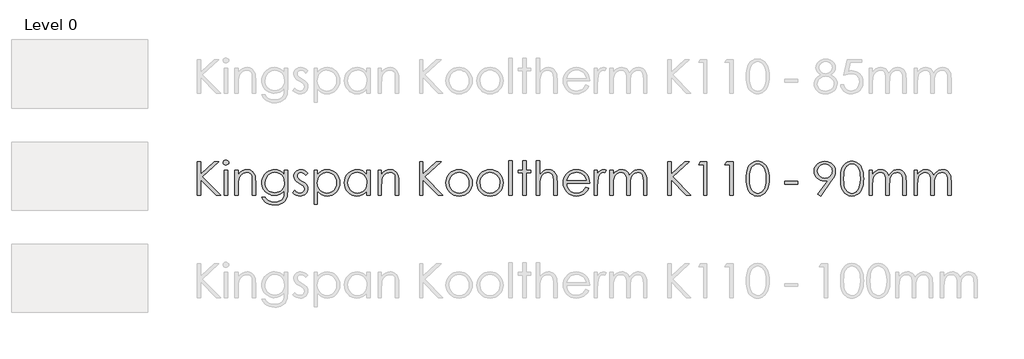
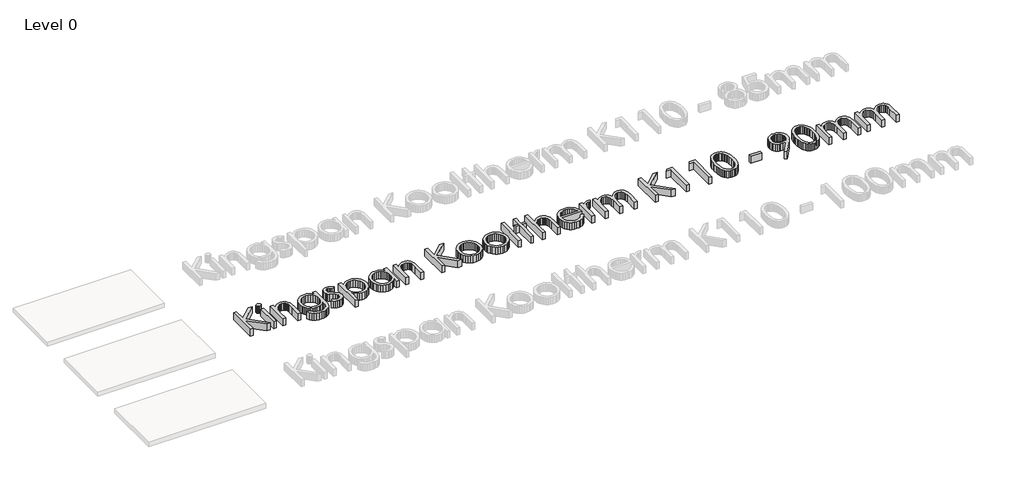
# One storey, part 4 of 9: 1 proxy.
"""IFC4 building model written with IfcOpenShell, lengths in millimetres."""

from ifc_helpers import new_model, si_unit, origin, origin_with_axes, place, context, project, spatial, polyline, outline, extrude, element, save

model = new_model("IFC4")

# Units and contexts
model_context = context("Model", 3, world=origin())
ifc_project = project(units=[si_unit("LENGTHUNIT", "METRE", prefix="MILLI")], contexts=[model_context])

# Site, building, storey
site = spatial("IfcSite", under=ifc_project)
building = spatial("IfcBuilding", under=site)
storey = spatial("IfcBuildingStorey", under=building, Name="Level 0", Elevation=0.0)

# Proxy
placement = place(None, origin())
element("IfcBuildingElementProxy", 1, Name="600mm KI_CenturyGothic", ObjectType="600mm KI_CenturyGothic", at=placement, inside=storey, context=model_context, shape_type="SweptSolid", body=[
    extrude(outline(polyline([(-3852.2663848, -3099.1034017), (-3792.944575, -3099.1034017), (-3792.944575, -3318.316027), (-3555.1938841, -3099.1034017), (-3471.6181051, -3099.1034017), (-3760.9664119, -3366.0515459), (-3441.9572002, -3692.3214999), (-3520.8984627, -3692.3214999), (-3792.944575, -3414.0960325), (-3792.944575, -3692.3214999), (-3852.2663848, -3692.3214999), (-3852.2663848, -3099.1034017)])), origin_with_axes(), (0.0, 0.0, 1.0), 150.0),
    extrude(outline(polyline([(-3348.1854852, -3069.4424967), (-3329.145347, -3072.7252792), (-3313.1176445, -3082.5736265), (-3302.226531, -3097.0178693), (-3298.5961598, -3114.088338), (-3302.226531, -3130.9270809), (-3313.1176445, -3145.2940817), (-3329.145347, -3155.142429), (-3348.1854852, -3158.4252115), (-3366.9938975, -3155.142429), (-3382.9443581, -3145.2940817), (-3393.8354717, -3130.9270809), (-3397.4658428, -3114.088338), (-3393.8354717, -3097.0178693), (-3382.9443581, -3082.5736265), (-3366.9938975, -3072.7252792), (-3348.1854852, -3069.4424967)])), origin_with_axes(), (0.0, 0.0, 1.0), 150.0),
    extrude(outline(polyline([(-3377.6919062, -3247.4079262), (-3318.3700964, -3247.4079262), (-3318.3700964, -3692.3214999), (-3377.6919062, -3692.3214999), (-3377.6919062, -3247.4079262)])), origin_with_axes(), (0.0, 0.0, 1.0), 150.0),
    extrude(outline(polyline([(-3189.8395084, -3247.4079262), (-3130.5176986, -3247.4079262), (-3130.5176986, -3326.5036726), (-3096.9946967, -3286.9944204), (-3060.0730495, -3259.303185), (-3019.7141359, -3242.9665147), (-2975.879335, -3237.5209579), (-2953.4357238, -3239.0995901), (-2932.2955704, -3243.8354865), (-2912.4588747, -3251.7286472), (-2893.9256368, -3262.7790723), (-2877.212412, -3276.5039994), (-2862.835756, -3292.4206667), (-2841.0921499, -3330.8292213), (-2833.6238199, -3355.2087086), (-2828.2892984, -3385.5551357), (-2824.0216812, -3464.1488095), (-2824.0216812, -3692.3214999), (-2883.343491, -3692.3214999), (-2883.343491, -3479.1337458), (-2883.343491, -3376.092998), (-2884.7290183, -3355.2956057), (-2889.8125035, -3337.2403023), (-2898.2849788, -3321.9270877), (-2910.1464442, -3309.355962), (-2924.7403432, -3299.5558909), (-2941.4101193, -3292.5558401), (-2980.977303, -3286.9557994), (-3005.3471351, -3289.1137461), (-3028.4038541, -3295.5875862), (-3050.1474602, -3306.3773197), (-3070.5779533, -3321.4829466), (-3088.6622225, -3339.7651482), (-3103.3671568, -3360.084606), (-3114.6927562, -3382.44132), (-3122.6390208, -3406.8352901), (-3128.5480292, -3453.9142525), (-3130.5176986, -3528.4141035), (-3130.5176986, -3692.3214999), (-3189.8395084, -3692.3214999), (-3189.8395084, -3247.4079262)])), origin_with_axes(), (0.0, 0.0, 1.0), 150.0),
    extrude(outline(polyline([(-2319.7862977, -3247.4079262), (-2260.4644879, -3247.4079262), (-2260.4644879, -3598.395301), (-2264.5196897, -3678.6496765), (-2269.588692, -3709.4499001), (-2276.6852953, -3734.0321474), (-2289.9371156, -3762.6454585), (-2307.2924139, -3787.7732271), (-2328.7511904, -3809.4154531), (-2354.3134448, -3827.5721366), (-2383.3226209, -3841.9343098), (-2415.122162, -3852.1930049), (-2449.7120682, -3858.348222), (-2487.0923395, -3860.3999611), (-2541.0458345, -3856.3833802), (-2589.206184, -3844.3336376), (-2630.260275, -3825.5059147), (-2662.8949946, -3801.1553932), (-2690.2000204, -3767.8061856), (-2715.2650299, -3721.9824048), (-2655.94322, -3721.9824048), (-2642.4355358, -3743.151524), (-2627.0933555, -3761.3951046), (-2609.9166791, -3776.7131468), (-2590.9055067, -3789.1056506), (-2569.7894914, -3798.6691682), (-2546.2982864, -3805.5002523), (-2492.1903075, -3810.9651195), (-2438.5071593, -3805.6354257), (-2415.083541, -3798.9733084), (-2393.93856, -3789.6463441), (-2359.6624492, -3765.6047903), (-2336.8567664, -3736.1176798), (-2329.3884364, -3717.4782342), (-2324.0539149, -3693.7697863), (-2319.7862977, -3631.1458835), (-2319.7862977, -3608.4367532), (-2354.757586, -3644.2190818), (-2396.6420279, -3670.6165148), (-2443.392712, -3686.8952536), (-2492.9627269, -3692.3214999), (-2522.4063889, -3690.4242447), (-2550.9521133, -3684.7324793), (-2578.5999001, -3675.2462036), (-2605.3497494, -3661.9654175), (-2630.1540674, -3645.4742634), (-2651.9652601, -3626.3568832), (-2670.7833277, -3604.6132772), (-2686.6082702, -3580.2434451), (-2699.1456025, -3553.9280817), (-2708.1008399, -3526.3478816), (-2713.4739824, -3497.5028447), (-2715.2650299, -3467.392971), (-2713.3967404, -3437.1044753), (-2707.7918722, -3407.8780563), (-2698.4504251, -3379.713714), (-2685.3723991, -3352.6114483), (-2668.9971079, -3327.4257483), (-2649.7638648, -3305.0111029), (-2627.67267, -3285.367512), (-2602.7235235, -3268.4949758), (-2575.9833294, -3254.943843), (-2548.5189922, -3245.2644624), (-2520.3305117, -3239.456834), (-2491.4178881, -3237.5209579), (-2444.5320306, -3242.4644421), (-2400.8903346, -3257.2948945), (-2359.6045177, -3283.8661218), (-2319.7862977, -3324.0319306), (-2319.7862977, -3247.4079262)]), holes=[polyline([(-2484.1571458, -3286.9557994), (-2529.0154023, -3292.9806707), (-2570.5908765, -3311.0552847), (-2606.2187212, -3339.7699758), (-2633.2340897, -3377.7150788), (-2650.2659375, -3421.9940208), (-2655.94322, -3469.7102292), (-2653.0080263, -3505.6229036), (-2644.2024452, -3538.2817613), (-2629.5264766, -3567.6868023), (-2608.9801206, -3593.8380266), (-2583.7606272, -3615.296803), (-2555.0652466, -3630.6245004), (-2522.8939786, -3639.8211189), (-2487.2468234, -3642.8866584), (-2451.3244937, -3639.845257), (-2419.1001219, -3630.7210528), (-2390.573708, -3615.5140459), (-2365.7452519, -3594.2242363), (-2345.6382095, -3567.9812872), (-2331.2760363, -3537.9148621), (-2322.6587323, -3504.024961), (-2319.7862977, -3466.3115838), (-2325.0773706, -3417.6105407), (-2340.9505892, -3374.3936754), (-2366.4983608, -3338.1672056), (-2400.8130926, -3310.4373492), (-2440.9982119, -3292.8261869), (-2484.1571458, -3286.9557994)])]), origin_with_axes(), (0.0, 0.0, 1.0), 150.0),
    extrude(outline(polyline([(-1904.5336289, -3298.6965743), (-1940.9918246, -3336.390641), (-1962.9575012, -3314.7628978), (-1984.6721416, -3299.3145098), (-2006.1357456, -3290.045477), (-2027.3483133, -3286.9557994), (-2052.181597, -3291.6289368), (-2073.2300256, -3305.6483489), (-2087.5970264, -3325.8857371), (-2092.3860267, -3349.212803), (-2088.4466878, -3370.7633042), (-2076.628671, -3391.2324183), (-2052.0657341, -3413.400855), (-2010.2006027, -3439.122421), (-1958.3326401, -3471.9888664), (-1939.8428507, -3487.8138088), (-1926.315856, -3503.2332311), (-1909.9791857, -3535.9065716), (-1904.5336289, -3572.4420092), (-1906.9474396, -3598.5884059), (-1914.1888714, -3622.6492701), (-1926.2579245, -3644.624602), (-1943.1545989, -3664.5144015), (-1963.6719892, -3681.0055557), (-1986.6031901, -3692.7849515), (-2011.9482016, -3699.852589), (-2039.7070237, -3702.2084682), (-2077.4397114, -3698.3270607), (-2113.3958344, -3686.6828383), (-2145.4512394, -3668.2027042), (-2171.4817731, -3643.8135617), (-2135.7959969, -3603.3387852), (-2114.0041146, -3624.9665283), (-2091.5749863, -3640.4149163), (-2068.5086121, -3649.6839491), (-2044.8049918, -3652.7736267), (-2013.637869, -3647.1349651), (-1987.4914724, -3630.2189802), (-1969.7644472, -3605.6560434), (-1963.8554388, -3577.0765256), (-1967.7561567, -3553.2860081), (-1979.4583106, -3532.2762005), (-2005.0253927, -3510.5712154), (-2050.2119275, -3483.7682622), (-2099.762632, -3453.1032121), (-2117.441381, -3437.9444814), (-2130.3890611, -3422.9016136), (-2146.3781427, -3390.7689666), (-2151.7078365, -3354.310771), (-2149.5305794, -3330.2643896), (-2142.9988078, -3308.3325063), (-2132.1125219, -3288.5151211), (-2116.8717217, -3270.812234), (-2098.309518, -3256.2473007), (-2077.4590218, -3245.8437769), (-2054.3202332, -3239.6016627), (-2028.8931521, -3237.5209579), (-1997.9481, -3241.3444339), (-1966.9064954, -3252.814862), (-1935.7683384, -3271.9322421), (-1904.5336289, -3298.6965743)])), origin_with_axes(), (0.0, 0.0, 1.0), 150.0),
    extrude(outline(polyline([(-1795.7769776, -3247.4079262), (-1736.4551678, -3247.4079262), (-1736.4551678, -3328.5119631), (-1700.9238754, -3288.2689124), (-1660.4490989, -3259.9211205), (-1614.9922173, -3243.1209986), (-1564.5146096, -3237.5209579), (-1520.0618732, -3241.7596094), (-1478.9305402, -3254.4755637), (-1441.1206107, -3275.668821), (-1406.6320845, -3305.3393811), (-1377.9077381, -3340.9768811), (-1357.3903478, -3380.070958), (-1345.0799137, -3422.6216116), (-1340.9764356, -3468.628842), (-1345.0412927, -3515.5291824), (-1357.235864, -3558.7508754), (-1377.5601494, -3598.293921), (-1406.014149, -3634.1583192), (-1440.2130179, -3663.9302594), (-1477.7719111, -3685.1959309), (-1518.6908288, -3697.9553339), (-1562.9697708, -3702.2084682), (-1612.6170277, -3696.743601), (-1658.0545988, -3680.3489992), (-1699.3211052, -3653.1019049), (-1736.4551678, -3615.07956), (-1736.4551678, -3850.5129928), (-1795.7769776, -3850.5129928), (-1795.7769776, -3247.4079262)]), holes=[polyline([(-1568.5311905, -3286.9557994), (-1602.5852307, -3290.2530647), (-1633.8392507, -3300.1448607), (-1662.2932503, -3316.6311872), (-1687.9472295, -3339.7120444), (-1709.1694525, -3367.6977647), (-1724.3281832, -3398.8986808), (-1733.4234216, -3433.3147926), (-1736.4551678, -3470.9461002), (-1731.048232, -3519.8016272), (-1714.8274246, -3563.4819442), (-1688.5265441, -3600.3263495), (-1652.8793888, -3628.6741414), (-1611.4390881, -3646.7487554), (-1567.7587711, -3652.7736267), (-1525.0632888, -3646.7101344), (-1485.0326535, -3628.5196576), (-1450.2544701, -3599.4187567), (-1423.3163435, -3560.6239924), (-1406.05277, -3515.9588407), (-1400.2982454, -3469.2467775), (-1405.9948385, -3422.3029886), (-1423.0846177, -3377.8695627), (-1449.8103289, -3339.5189395), (-1484.414718, -3310.8235589), (-1524.7157001, -3292.9227393), (-1568.5311905, -3286.9557994)])]), origin_with_axes(), (0.0, 0.0, 1.0), 150.0),
    extrude(outline(polyline([(-807.0801472, -3247.4079262), (-807.0801472, -3692.3214999), (-866.401957, -3692.3214999), (-866.401957, -3616.4699149), (-903.4780882, -3654.3184655), (-944.8797679, -3681.0441767), (-990.4525125, -3696.9173953), (-1040.0418379, -3702.2084682), (-1084.3159523, -3697.9553339), (-1125.2203871, -3685.1959309), (-1162.7551422, -3663.9302594), (-1196.9202178, -3634.1583192), (-1225.340424, -3598.293921), (-1245.6405713, -3558.7508754), (-1257.8206597, -3515.5291824), (-1261.8806892, -3468.628842), (-1257.7820388, -3422.6216116), (-1245.4860875, -3380.070958), (-1224.9928353, -3340.9768811), (-1196.3022822, -3305.3393811), (-1161.8475494, -3275.668821), (-1124.061758, -3254.4755637), (-1082.9449079, -3241.7596094), (-1038.4969991, -3237.5209579), (-987.7490446, -3243.1209986), (-942.0990581, -3259.9211205), (-921.2051134, -3272.6081091), (-901.6242816, -3288.2689124), (-866.401957, -3328.5119631), (-866.401957, -3247.4079262), (-807.0801472, -3247.4079262)]), holes=[polyline([(-1034.3259343, -3286.9557994), (-1078.1414247, -3292.9227393), (-1118.4424068, -3310.8235589), (-1153.0467959, -3339.5189395), (-1179.7725071, -3377.8695627), (-1196.8622863, -3422.3029886), (-1202.5588794, -3469.2467775), (-1196.8043548, -3515.9588407), (-1179.5407813, -3560.6239924), (-1152.6026548, -3599.4187567), (-1117.8244713, -3628.5196576), (-1077.6779731, -3646.7101344), (-1034.6349021, -3652.7736267), (-991.0125165, -3646.7487554), (-949.7460102, -3628.6741414), (-914.2726493, -3600.3263495), (-888.0297002, -3563.4819442), (-871.8088928, -3519.8016272), (-866.401957, -3470.9461002), (-869.4337032, -3433.3147926), (-878.5289416, -3398.8986808), (-893.6876723, -3367.6977647), (-914.9098953, -3339.7120444), (-940.5638746, -3316.6311872), (-969.0178742, -3300.1448607), (-1000.2718941, -3290.2530647), (-1034.3259343, -3286.9557994)])]), origin_with_axes(), (0.0, 0.0, 1.0), 150.0),
    extrude(outline(polyline([(-668.662591, -3247.4079262), (-609.3407811, -3247.4079262), (-609.3407811, -3326.5036726), (-575.8177792, -3286.9944204), (-538.896132, -3259.303185), (-498.5372184, -3242.9665147), (-454.7024175, -3237.5209579), (-432.2588064, -3239.0995901), (-411.1186529, -3243.8354865), (-391.2819572, -3251.7286472), (-372.7487193, -3262.7790723), (-356.0354946, -3276.5039994), (-341.6588385, -3292.4206667), (-319.9152324, -3330.8292213), (-312.4469024, -3355.2087086), (-307.1123809, -3385.5551357), (-302.8447637, -3464.1488095), (-302.8447637, -3692.3214999), (-362.1665735, -3692.3214999), (-362.1665735, -3479.1337458), (-362.1665735, -3376.092998), (-363.5521008, -3355.2956057), (-368.635586, -3337.2403023), (-377.1080613, -3321.9270877), (-388.9695267, -3309.355962), (-403.5634257, -3299.5558909), (-420.2332018, -3292.5558401), (-459.8003855, -3286.9557994), (-484.1702176, -3289.1137461), (-507.2269366, -3295.5875862), (-528.9705427, -3306.3773197), (-549.4010358, -3321.4829466), (-567.485305, -3339.7651482), (-582.1902393, -3360.084606), (-593.5158387, -3382.44132), (-601.4621033, -3406.8352901), (-607.3711117, -3453.9142525), (-609.3407811, -3528.4141035), (-609.3407811, -3692.3214999), (-668.662591, -3692.3214999), (-668.662591, -3247.4079262)])), origin_with_axes(), (0.0, 0.0, 1.0), 150.0),
    extrude(outline(polyline([(62.9730635, -3099.1034017), (122.2948734, -3099.1034017), (122.2948734, -3318.316027), (360.0455643, -3099.1034017), (443.6213432, -3099.1034017), (154.2730365, -3366.0515459), (473.2822481, -3692.3214999), (394.3409856, -3692.3214999), (122.2948734, -3414.0960325), (122.2948734, -3692.3214999), (62.9730635, -3692.3214999), (62.9730635, -3099.1034017)])), origin_with_axes(), (0.0, 0.0, 1.0), 150.0),
    extrude(outline(polyline([(760.1588128, -3237.5209579), (809.4681362, -3242.1458191), (854.3553585, -3256.0204025), (894.8204798, -3279.1447083), (930.8635, -3311.5187363), (957.7630055, -3346.7507161), (976.9769381, -3385.091684), (988.5052976, -3426.54164), (992.3480841, -3471.1005841), (988.283227, -3515.9153921), (976.0886558, -3557.8239721), (955.7643703, -3596.8263241), (927.3103707, -3632.9224481), (892.4742558, -3663.2350819), (853.0036246, -3684.8869632), (808.8984769, -3697.8780919), (760.1588128, -3702.2084682), (711.2839754, -3697.8780919), (667.0822753, -3684.8869632), (627.5537126, -3663.2350819), (592.6982872, -3632.9224481), (564.2442876, -3596.8263241), (543.9200022, -3557.8239721), (531.7254309, -3515.9153921), (527.6605738, -3471.1005841), (531.5033603, -3426.7347449), (543.0317198, -3385.4006518), (562.2456524, -3347.0983049), (589.145158, -3311.8277041), (625.2074886, -3279.3185026), (665.7305413, -3256.0976445), (710.7143161, -3242.1651295), (760.1588128, -3237.5209579)]), holes=[polyline([(760.004329, -3286.9557994), (725.7282181, -3290.3303067), (693.9624704, -3300.4538284), (664.7070856, -3317.3263647), (637.962064, -3340.9479154), (615.6584538, -3369.3584664), (599.7273037, -3400.5980035), (590.1686137, -3434.6665266), (586.9823836, -3471.5640357), (592.7948396, -3519.2995546), (610.2322075, -3563.6364281), (637.5758543, -3601.4270471), (673.1071466, -3629.5238028), (714.6439998, -3646.9611707), (760.004329, -3652.7736267), (805.3646581, -3646.9611707), (846.9015113, -3629.5238028), (882.4328037, -3601.4270471), (909.7764504, -3563.6364281), (927.2138183, -3519.2995546), (933.0262743, -3471.5640357), (929.8255614, -3434.6665266), (920.2234227, -3400.5980035), (904.2198583, -3369.3584664), (881.8148681, -3340.9479154), (854.9974321, -3317.3263647), (825.7565303, -3300.4538284), (794.0921625, -3290.3303067), (760.004329, -3286.9557994)])]), origin_with_axes(), (0.0, 0.0, 1.0), 150.0),
    extrude(outline(polyline([(1303.9420695, -3237.5209579), (1353.2513929, -3242.1458191), (1398.1386152, -3256.0204025), (1438.6037365, -3279.1447083), (1474.6467567, -3311.5187363), (1501.5462622, -3346.7507161), (1520.7601948, -3385.091684), (1532.2885543, -3426.54164), (1536.1313408, -3471.1005841), (1532.0664837, -3515.9153921), (1519.8719125, -3557.8239721), (1499.547627, -3596.8263241), (1471.0936274, -3632.9224481), (1436.2575126, -3663.2350819), (1396.7868813, -3684.8869632), (1352.6817336, -3697.8780919), (1303.9420695, -3702.2084682), (1255.0672321, -3697.8780919), (1210.865532, -3684.8869632), (1171.3369693, -3663.2350819), (1136.4815439, -3632.9224481), (1108.0275443, -3596.8263241), (1087.7032589, -3557.8239721), (1075.5086876, -3515.9153921), (1071.4438305, -3471.1005841), (1075.286617, -3426.7347449), (1086.8149766, -3385.4006518), (1106.0289091, -3347.0983049), (1132.9284147, -3311.8277041), (1168.9907453, -3279.3185026), (1209.5137981, -3256.0976445), (1254.4975728, -3242.1651295), (1303.9420695, -3237.5209579)]), holes=[polyline([(1303.7875857, -3286.9557994), (1269.5114748, -3290.3303067), (1237.7457271, -3300.4538284), (1208.4903423, -3317.3263647), (1181.7453207, -3340.9479154), (1159.4417105, -3369.3584664), (1143.5105604, -3400.5980035), (1133.9518704, -3434.6665266), (1130.7656404, -3471.5640357), (1136.5780963, -3519.2995546), (1154.0154643, -3563.6364281), (1181.359111, -3601.4270471), (1216.8904033, -3629.5238028), (1258.4272565, -3646.9611707), (1303.7875857, -3652.7736267), (1349.1479149, -3646.9611707), (1390.684768, -3629.5238028), (1426.2160604, -3601.4270471), (1453.5597071, -3563.6364281), (1470.997075, -3519.2995546), (1476.809531, -3471.5640357), (1473.6088181, -3434.6665266), (1464.0066795, -3400.5980035), (1448.003115, -3369.3584664), (1425.5981249, -3340.9479154), (1398.7806889, -3317.3263647), (1369.539787, -3300.4538284), (1337.8754193, -3290.3303067), (1303.7875857, -3286.9557994)])]), origin_with_axes(), (0.0, 0.0, 1.0), 150.0),
    extrude(outline(polyline([(1635.0010238, -3079.3294651), (1694.3228337, -3079.3294651), (1694.3228337, -3692.3214999), (1635.0010238, -3692.3214999), (1635.0010238, -3079.3294651)])), origin_with_axes(), (0.0, 0.0, 1.0), 150.0),
    extrude(outline(polyline([(1882.1752314, -3079.3294651), (1941.4970413, -3079.3294651), (1941.4970413, -3247.4079262), (2020.5927877, -3247.4079262), (2020.5927877, -3296.8427677), (1941.4970413, -3296.8427677), (1941.4970413, -3692.3214999), (1882.1752314, -3692.3214999), (1882.1752314, -3296.8427677), (1803.079485, -3296.8427677), (1803.079485, -3247.4079262), (1882.1752314, -3247.4079262), (1882.1752314, -3079.3294651)])), origin_with_axes(), (0.0, 0.0, 1.0), 150.0),
    extrude(outline(polyline([(2119.4624707, -3079.3294651), (2178.7842806, -3079.3294651), (2178.7842806, -3328.0485114), (2212.5583188, -3288.3461544), (2249.6151394, -3260.0756044), (2289.9161216, -3243.1596195), (2333.4226442, -3237.5209579), (2355.8662553, -3239.0995901), (2377.0064088, -3243.8354865), (2396.8431044, -3251.7286472), (2415.3763424, -3262.7790723), (2432.0895671, -3276.4895166), (2446.4662232, -3292.3627352), (2468.2098293, -3330.5974955), (2475.6781593, -3354.9045684), (2481.0126808, -3385.2654784), (2485.280298, -3464.1488095), (2485.280298, -3692.3214999), (2425.9584882, -3692.3214999), (2425.9584882, -3479.1337458), (2424.5681332, -3414.752589), (2420.3970685, -3376.092998), (2406.879729, -3337.2403023), (2397.1665551, -3321.9270877), (2385.4837117, -3309.355962), (2371.840854, -3299.5558909), (2356.2476374, -3292.5558401), (2319.2101273, -3286.9557994), (2296.3416854, -3289.1137461), (2274.6994594, -3295.5875862), (2254.2834492, -3306.3773197), (2235.0936547, -3321.4829466), (2218.1052556, -3339.7651482), (2204.2934312, -3360.084606), (2193.6581816, -3382.44132), (2186.1995068, -3406.8352901), (2180.6380871, -3453.6825267), (2178.7842806, -3528.4141035), (2178.7842806, -3692.3214999), (2119.4624707, -3692.3214999), (2119.4624707, -3079.3294651)])), origin_with_axes(), (0.0, 0.0, 1.0), 150.0),
    extrude(outline(polyline([(2991.0605203, -3544.0169753), (3038.950523, -3569.1978477), (3013.3255094, -3611.0822896), (2984.0315038, -3644.0452875), (2950.952643, -3669.1296074), (2913.9730643, -3687.3780157), (2872.4941426, -3698.5008551), (2825.9172528, -3702.2084682), (2774.4258447, -3697.7767119), (2728.8627554, -3684.481443), (2689.227985, -3662.3226615), (2655.5215335, -3631.3003674), (2628.6220279, -3594.6973431), (2609.4080954, -3555.7963712), (2597.8797358, -3514.5974515), (2594.0369493, -3471.1005841), (2597.3197318, -3430.2202874), (2607.1680791, -3391.618628), (2623.5819913, -3355.2956057), (2646.5614684, -3321.2512207), (2682.7493173, -3284.6192308), (2724.5758277, -3258.4535236), (2772.0409998, -3242.7540993), (2825.1448334, -3237.5209579), (2879.7935059, -3242.8892727), (2928.6490329, -3258.9942172), (2971.7114143, -3285.8357913), (3008.9806503, -3323.4139951), (3030.4539096, -3355.585263), (3045.9022976, -3391.541386), (3055.3258143, -3431.2823641), (3058.7244596, -3474.8081972), (2653.3587591, -3474.8081972), (2657.095338, -3512.0629503), (2666.6057518, -3545.8128504), (2681.8900007, -3576.0578975), (2702.9480845, -3602.7980916), (2728.3124066, -3624.6623882), (2756.5153699, -3640.2797429), (2787.5569744, -3649.6501557), (2821.4372203, -3652.7736267), (2854.9602222, -3649.761191), (2887.5563208, -3640.7238841), (2917.2944677, -3626.6851615), (2942.2436143, -3608.668479), (2965.725164, -3582.5027719), (2991.0605203, -3544.0169753)]), holes=[polyline([(2999.4026498, -3425.3733557), (2984.9777175, -3382.8516678), (2965.1844704, -3349.8307385), (2939.0766947, -3324.3022774), (2905.7081767, -3304.257994), (2867.7630738, -3291.2813481), (2827.9255433, -3286.9557994), (2795.503239, -3289.6689226), (2765.4368139, -3297.808292), (2737.726268, -3311.3739077), (2712.3716012, -3330.3657696), (2695.8321708, -3348.179692), (2681.4362043, -3369.9522638), (2669.1837016, -3395.683485), (2659.0746627, -3425.3733557), (2999.4026498, -3425.3733557)])]), origin_with_axes(), (0.0, 0.0, 1.0), 150.0),
    extrude(outline(polyline([(3137.820206, -3247.4079262), (3197.1420159, -3247.4079262), (3197.1420159, -3311.8277041), (3222.6897875, -3278.7874643), (3249.589293, -3255.6728138), (3277.7632906, -3242.0589219), (3307.1345382, -3237.5209579), (3330.4616041, -3241.305813), (3355.3335087, -3252.6603781), (3325.8270877, -3294.6799934), (3297.2475699, -3286.9557994), (3270.8308265, -3292.9034288), (3245.3409863, -3310.7463169), (3223.2884125, -3341.1023993), (3207.183468, -3384.5896114), (3199.6523789, -3442.7141712), (3197.1420159, -3540.1548783), (3197.1420159, -3692.3214999), (3137.820206, -3692.3214999), (3137.820206, -3247.4079262)])), origin_with_axes(), (0.0, 0.0, 1.0), 150.0),
    extrude(outline(polyline([(3414.6553185, -3247.4079262), (3473.9771284, -3247.4079262), (3473.9771284, -3323.5684789), (3503.5607913, -3287.0716623), (3533.9168737, -3261.9294109), (3577.3268439, -3243.6230712), (3622.8995884, -3237.5209579), (3653.7384329, -3240.668567), (3682.9165757, -3250.1113941), (3708.6767627, -3264.7873627), (3729.2617397, -3283.634396), (3746.0425511, -3309.0663047), (3760.3902414, -3343.4968994), (3775.16759, -3319.0981017), (3791.6925376, -3297.808292), (3809.965084, -3279.6274704), (3829.9852293, -3264.5556369), (3851.2798666, -3252.7279648), (3873.375889, -3244.2796277), (3896.2732965, -3239.2106253), (3919.9720892, -3237.5209579), (3962.3006723, -3243.3334139), (3981.4952943, -3250.5989839), (3999.3768034, -3260.7707818), (4015.4914031, -3273.53984), (4029.385297, -3288.5971907), (4050.5109676, -3325.5767694), (4057.8103309, -3348.9521114), (4063.0241619, -3377.5219739), (4067.1952266, -3450.2452603), (4067.1952266, -3692.3214999), (4007.8734168, -3692.3214999), (4007.8734168, -3446.6921311), (4005.4209852, -3385.5744462), (3998.0636904, -3347.1272706), (3984.7587663, -3322.6608861), (3964.4634466, -3303.4855746), (3938.3942919, -3291.0882432), (3907.7678627, -3286.9557994), (3888.1194443, -3288.5054659), (3869.3399976, -3293.1544651), (3834.3880198, -3311.7504621), (3805.6540182, -3340.6968791), (3785.8800816, -3377.9468046), (3779.1889985, -3402.1042213), (3774.4096535, -3433.1747916), (3770.5861775, -3516.0553931), (3770.5861775, -3692.3214999), (3711.2643677, -3692.3214999), (3711.2643677, -3461.9860352), (3708.850557, -3393.530366), (3701.6091252, -3351.2983353), (3688.3621325, -3325.0553863), (3667.9316394, -3304.5669617), (3641.6114484, -3291.35859), (3610.6953619, -3286.9557994), (3573.7544042, -3292.9999812), (3539.2465676, -3311.1325266), (3510.2808401, -3339.499629), (3489.9662099, -3376.2474819), (3477.9743988, -3428.0768236), (3473.9771284, -3501.6883923), (3473.9771284, -3692.3214999), (3414.6553185, -3692.3214999), (3414.6553185, -3247.4079262)])), origin_with_axes(), (0.0, 0.0, 1.0), 150.0),
    extrude(outline(polyline([(4433.0130538, -3099.1034017), (4492.3348637, -3099.1034017), (4492.3348637, -3318.316027), (4730.0855546, -3099.1034017), (4813.6613335, -3099.1034017), (4524.3130268, -3366.0515459), (4843.3222385, -3692.3214999), (4764.3809759, -3692.3214999), (4492.3348637, -3414.0960325), (4492.3348637, -3692.3214999), (4433.0130538, -3692.3214999), (4433.0130538, -3099.1034017)])), origin_with_axes(), (0.0, 0.0, 1.0), 150.0),
    extrude(outline(polyline([(5010.6282802, -3099.1034017), (5125.1008351, -3099.1034017), (5125.1008351, -3692.3214999), (5065.7790253, -3692.3214999), (5065.7790253, -3148.5382432), (4976.7963106, -3148.5382432), (5010.6282802, -3099.1034017)])), origin_with_axes(), (0.0, 0.0, 1.0), 150.0),
    extrude(outline(polyline([(5475.3157905, -3099.1034017), (5589.7883454, -3099.1034017), (5589.7883454, -3692.3214999), (5530.4665356, -3692.3214999), (5530.4665356, -3148.5382432), (5441.4838208, -3148.5382432), (5475.3157905, -3099.1034017)])), origin_with_axes(), (0.0, 0.0, 1.0), 150.0),
    extrude(outline(polyline([(5817.1886164, -3395.8669347), (5818.7672485, -3341.4355052), (5823.503145, -3293.5406748), (5831.3963057, -3252.1824436), (5842.4467307, -3217.3608116), (5856.374418, -3187.7192172), (5872.8993655, -3161.9010988), (5892.0215733, -3139.9064564), (5913.7410412, -3121.73529), (5937.4350063, -3107.5082902), (5962.4807053, -3097.3461475), (5988.8781382, -3091.2488619), (6016.6273051, -3089.2164334), (6044.8302684, -3091.2633448), (6071.6621873, -3097.404079), (6097.1230617, -3107.638636), (6121.2128917, -3121.9670159), (6143.3958113, -3140.3843909), (6163.1359546, -3162.8859335), (6180.4333215, -3189.4716437), (6195.2879121, -3220.1415214), (6207.2169642, -3255.6583309), (6215.7377157, -3296.7848363), (6220.8501666, -3343.5210375), (6222.5543169, -3395.8669347), (6220.8743047, -3448.0535203), (6215.8342681, -3494.6207548), (6207.4342071, -3535.5686382), (6195.6741218, -3570.8971704), (6180.9643599, -3601.4222195), (6163.7152692, -3627.9596535), (6143.9268497, -3650.5094723), (6121.5991014, -3669.071676), (6097.3403047, -3683.5690226), (6071.7587397, -3693.9242701), (6044.8544066, -3700.1374187), (6016.6273051, -3702.2084682), (5988.9022764, -3700.2001778), (5962.5772577, -3694.1753064), (5937.6522492, -3684.1338543), (5914.1272509, -3670.0758212), (5892.5526116, -3652.0398282), (5873.4786801, -3630.0644964), (5856.9054564, -3604.1498255), (5842.8329404, -3574.2958158), (5831.6135487, -3539.2762513), (5823.5996974, -3497.8649163), (5818.7913866, -3450.0618107), (5817.1886164, -3395.8669347)]), holes=[polyline([(5876.5104262, -3395.7124508), (5880.8939063, -3484.038609), (5886.3732564, -3519.0195525), (5894.0443466, -3547.8790723), (5903.8589006, -3572.1185586), (5915.7686422, -3593.2394015), (5929.7735714, -3611.2416011), (5945.8736882, -3626.1251574), (5981.1732547, -3646.1115094), (5999.5761469, -3651.1080973), (6018.4811117, -3652.7736267), (6037.4729737, -3651.1418907), (6055.8275896, -3646.2466828), (6090.6250835, -3626.665851), (6106.3824393, -3611.9898824), (6120.1315046, -3594.0697524), (6131.8722794, -3572.9054608), (6141.6047639, -3548.4970078), (6151.0669015, -3515.1381451), (6157.8255712, -3478.5544313), (6163.232507, -3395.7124508), (6158.4048858, -3314.1063413), (6152.3703592, -3279.4150551), (6143.9220221, -3248.7982811), (6133.3398763, -3222.135329), (6120.903924, -3199.3055082), (6106.6141651, -3180.3088186), (6090.4705997, -3165.1452603), (6055.402759, -3145.2747712), (6037.1736612, -3140.307149), (6018.4811117, -3138.6512749), (5999.4651116, -3140.307149), (5981.0380814, -3145.2747712), (5945.9509302, -3165.1452603), (5930.0052972, -3179.9564022), (5916.0776099, -3197.8958428), (5904.1678683, -3218.9635819), (5894.2760724, -3243.1596195), (5886.5036022, -3272.0143117), (5880.9518378, -3307.0580143), (5876.5104262, -3395.7124508)])]), origin_with_axes(), (0.0, 0.0, 1.0), 150.0),
    extrude(outline(polyline([(6499.3894294, -3445.1472923), (6726.7897004, -3445.1472923), (6726.7897004, -3494.5821338), (6499.3894294, -3494.5821338), (6499.3894294, -3445.1472923)])), origin_with_axes(), (0.0, 0.0, 1.0), 150.0),
    extrude(outline(polyline([(7132.1554008, -3702.2084682), (7081.1757205, -3674.5558537), (7254.5066336, -3429.3899366), (7192.24963, -3435.260324), (7156.3514385, -3432.1899569), (7123.2725777, -3422.9788556), (7093.0130478, -3407.62702), (7065.5728486, -3386.1344502), (7042.7961316, -3360.1521927), (7026.527048, -3331.3312939), (7016.7655979, -3299.6717538), (7013.5117812, -3265.1735724), (7015.0421371, -3241.1368462), (7019.6332049, -3218.3070254), (7027.2849846, -3196.6841098), (7037.9974761, -3176.2680996), (7051.5196432, -3157.450032), (7067.6004496, -3140.6209443), (7107.4379801, -3112.9297089), (7154.0148698, -3095.1447522), (7203.835921, -3089.2164334), (7252.5562746, -3095.0481998), (7297.3759102, -3112.5434992), (7317.6615747, -3125.3753165), (7335.6492914, -3140.5437024), (7351.3390604, -3158.048657), (7364.7308818, -3177.8901803), (7383.095153, -3221.2615296), (7389.2165767, -3267.3363467), (7385.3931007, -3304.180752), (7373.9226726, -3342.72448), (7352.6038972, -3386.1344502), (7319.2353792, -3437.5775822), (7132.1554008, -3702.2084682)]), holes=[polyline([(7204.7628243, -3385.8254825), (7231.0154286, -3383.5613281), (7254.7769804, -3376.768865), (7276.0474796, -3365.4480932), (7294.8269262, -3349.5990127), (7310.1691065, -3330.5540469), (7321.1278067, -3309.6456193), (7327.7030268, -3286.8737299), (7329.8947669, -3262.2383787), (7327.5437153, -3237.6030275), (7320.4905607, -3214.8311381), (7308.735303, -3193.9227105), (7292.2779422, -3174.8777447), (7272.4798675, -3159.0286641), (7250.702468, -3147.7078923), (7226.9457439, -3140.9154292), (7201.2096951, -3138.6512749), (7175.6088196, -3140.9154292), (7151.9486479, -3147.7078923), (7130.2291799, -3159.0286641), (7110.4504157, -3174.8777447), (7093.9930549, -3193.9227105), (7082.2377972, -3214.8311381), (7075.1846425, -3237.6030275), (7072.833591, -3262.2383787), (7075.2474016, -3286.8737299), (7082.4888335, -3309.6456193), (7094.5578866, -3330.5540469), (7111.4545609, -3349.5990127), (7131.7691911, -3365.4480932), (7154.0921117, -3376.768865), (7178.4233228, -3383.5613281), (7204.7628243, -3385.8254825)])]), origin_with_axes(), (0.0, 0.0, 1.0), 150.0),
    extrude(outline(polyline([(7478.1992914, -3395.8669347), (7479.7779236, -3341.4355052), (7484.51382, -3293.5406748), (7492.4069808, -3252.1824436), (7503.4574058, -3217.3608116), (7517.3850931, -3187.7192172), (7533.9100406, -3161.9010988), (7553.0322483, -3139.9064564), (7574.7517163, -3121.73529), (7598.4456813, -3107.5082902), (7623.4913804, -3097.3461475), (7649.8888133, -3091.2488619), (7677.6379802, -3089.2164334), (7705.8409435, -3091.2633448), (7732.6728624, -3097.404079), (7758.1337368, -3107.638636), (7782.2235668, -3121.9670159), (7804.4064864, -3140.3843909), (7824.1466297, -3162.8859335), (7841.4439966, -3189.4716437), (7856.2985871, -3220.1415214), (7868.2276392, -3255.6583309), (7876.7483907, -3296.7848363), (7881.8608416, -3343.5210375), (7883.5649919, -3395.8669347), (7881.8849797, -3448.0535203), (7876.8449431, -3494.6207548), (7868.4448822, -3535.5686382), (7856.6847968, -3570.8971704), (7841.9750349, -3601.4222195), (7824.7259442, -3627.9596535), (7804.9375247, -3650.5094723), (7782.6097765, -3669.071676), (7758.3509797, -3683.5690226), (7732.7694148, -3693.9242701), (7705.8650816, -3700.1374187), (7677.6379802, -3702.2084682), (7649.9129514, -3700.2001778), (7623.5879328, -3694.1753064), (7598.6629243, -3684.1338543), (7575.137926, -3670.0758212), (7553.5632867, -3652.0398282), (7534.4893551, -3630.0644964), (7517.9161314, -3604.1498255), (7503.8436155, -3574.2958158), (7492.6242237, -3539.2762513), (7484.6103725, -3497.8649163), (7479.8020617, -3450.0618107), (7478.1992914, -3395.8669347)]), holes=[polyline([(7537.5211013, -3395.7124508), (7541.9045814, -3484.038609), (7547.3839315, -3519.0195525), (7555.0550216, -3547.8790723), (7564.8695756, -3572.1185586), (7576.7793172, -3593.2394015), (7590.7842464, -3611.2416011), (7606.8843633, -3626.1251574), (7642.1839298, -3646.1115094), (7660.586822, -3651.1080973), (7679.4917868, -3652.7736267), (7698.4836487, -3651.1418907), (7716.8382647, -3646.2466828), (7751.6357586, -3626.665851), (7767.3931143, -3611.9898824), (7781.1421796, -3594.0697524), (7792.8829545, -3572.9054608), (7802.6154389, -3548.4970078), (7812.0775766, -3515.1381451), (7818.8362463, -3478.5544313), (7824.2431821, -3395.7124508), (7819.4155608, -3314.1063413), (7813.3810343, -3279.4150551), (7804.9326971, -3248.7982811), (7794.3505514, -3222.135329), (7781.914599, -3199.3055082), (7767.6248402, -3180.3088186), (7751.4812747, -3165.1452603), (7716.413434, -3145.2747712), (7698.1843362, -3140.307149), (7679.4917868, -3138.6512749), (7660.4757867, -3140.307149), (7642.0487564, -3145.2747712), (7606.9616052, -3165.1452603), (7591.0159723, -3179.9564022), (7577.088285, -3197.8958428), (7565.1785434, -3218.9635819), (7555.2867474, -3243.1596195), (7547.5142772, -3272.0143117), (7541.9625128, -3307.0580143), (7537.5211013, -3395.7124508)])]), origin_with_axes(), (0.0, 0.0, 1.0), 150.0),
    extrude(outline(polyline([(7982.4346749, -3247.4079262), (8041.7564848, -3247.4079262), (8041.7564848, -3323.5684789), (8071.3401477, -3287.0716623), (8101.6962301, -3261.9294109), (8145.1062003, -3243.6230712), (8190.6789448, -3237.5209579), (8221.5177893, -3240.668567), (8250.6959321, -3250.1113941), (8276.4561191, -3264.7873627), (8297.0410961, -3283.634396), (8313.8219075, -3309.0663047), (8328.1695978, -3343.4968994), (8342.9469464, -3319.0981017), (8359.471894, -3297.808292), (8377.7444404, -3279.6274704), (8397.7645856, -3264.5556369), (8419.0592229, -3252.7279648), (8441.1552454, -3244.2796277), (8464.0526529, -3239.2106253), (8487.7514456, -3237.5209579), (8530.0800287, -3243.3334139), (8549.2746507, -3250.5989839), (8567.1561598, -3260.7707818), (8583.2707595, -3273.53984), (8597.1646534, -3288.5971907), (8618.290324, -3325.5767694), (8625.5896873, -3348.9521114), (8630.8035182, -3377.5219739), (8634.974583, -3450.2452603), (8634.974583, -3692.3214999), (8575.6527732, -3692.3214999), (8575.6527732, -3446.6921311), (8573.2003416, -3385.5744462), (8565.8430468, -3347.1272706), (8552.5381227, -3322.6608861), (8532.242803, -3303.4855746), (8506.1736483, -3291.0882432), (8475.5472191, -3286.9557994), (8455.8988006, -3288.5054659), (8437.119354, -3293.1544651), (8402.1673762, -3311.7504621), (8373.4333746, -3340.6968791), (8353.659438, -3377.9468046), (8346.9683549, -3402.1042213), (8342.1890099, -3433.1747916), (8338.3655339, -3516.0553931), (8338.3655339, -3692.3214999), (8279.0437241, -3692.3214999), (8279.0437241, -3461.9860352), (8276.6299134, -3393.530366), (8269.3884816, -3351.2983353), (8256.1414889, -3325.0553863), (8235.7109958, -3304.5669617), (8209.3908048, -3291.35859), (8178.4747183, -3286.9557994), (8141.5337606, -3292.9999812), (8107.025924, -3311.1325266), (8078.0601965, -3339.499629), (8057.7455663, -3376.2474819), (8045.7537552, -3428.0768236), (8041.7564848, -3501.6883923), (8041.7564848, -3692.3214999), (7982.4346749, -3692.3214999), (7982.4346749, -3247.4079262)])), origin_with_axes(), (0.0, 0.0, 1.0), 150.0),
    extrude(outline(polyline([(8773.3921393, -3247.4079262), (8832.7139491, -3247.4079262), (8832.7139491, -3323.5684789), (8862.2976121, -3287.0716623), (8892.6536944, -3261.9294109), (8936.0636646, -3243.6230712), (8981.6364092, -3237.5209579), (9012.4752537, -3240.668567), (9041.6533964, -3250.1113941), (9067.4135834, -3264.7873627), (9087.9985604, -3283.634396), (9104.7793718, -3309.0663047), (9119.1270621, -3343.4968994), (9133.9044108, -3319.0981017), (9150.4293583, -3297.808292), (9168.7019047, -3279.6274704), (9188.72205, -3264.5556369), (9210.0166873, -3252.7279648), (9232.1127097, -3244.2796277), (9255.0101172, -3239.2106253), (9278.7089099, -3237.5209579), (9321.037493, -3243.3334139), (9340.232115, -3250.5989839), (9358.1136241, -3260.7707818), (9374.2282238, -3273.53984), (9388.1221177, -3288.5971907), (9409.2477883, -3325.5767694), (9416.5471516, -3348.9521114), (9421.7609826, -3377.5219739), (9425.9320473, -3450.2452603), (9425.9320473, -3692.3214999), (9366.6102375, -3692.3214999), (9366.6102375, -3446.6921311), (9364.1578059, -3385.5744462), (9356.8005111, -3347.1272706), (9343.495587, -3322.6608861), (9323.2002673, -3303.4855746), (9297.1311126, -3291.0882432), (9266.5046834, -3286.9557994), (9246.856265, -3288.5054659), (9228.0768183, -3293.1544651), (9193.1248405, -3311.7504621), (9164.3908389, -3340.6968791), (9144.6169023, -3377.9468046), (9137.9258192, -3402.1042213), (9133.1464742, -3433.1747916), (9129.3229982, -3516.0553931), (9129.3229982, -3692.3214999), (9070.0011884, -3692.3214999), (9070.0011884, -3461.9860352), (9067.5873778, -3393.530366), (9060.3459459, -3351.2983353), (9047.0989532, -3325.0553863), (9026.6684601, -3304.5669617), (9000.3482691, -3291.35859), (8969.4321827, -3286.9557994), (8932.4912249, -3292.9999812), (8897.9833883, -3311.1325266), (8869.0176608, -3339.499629), (8848.7030306, -3376.2474819), (8836.7112195, -3428.0768236), (8832.7139491, -3501.6883923), (8832.7139491, -3692.3214999), (8773.3921393, -3692.3214999), (8773.3921393, -3247.4079262)])), origin_with_axes(), (0.0, 0.0, 1.0), 150.0),
])

save(model, "model.ifc")
